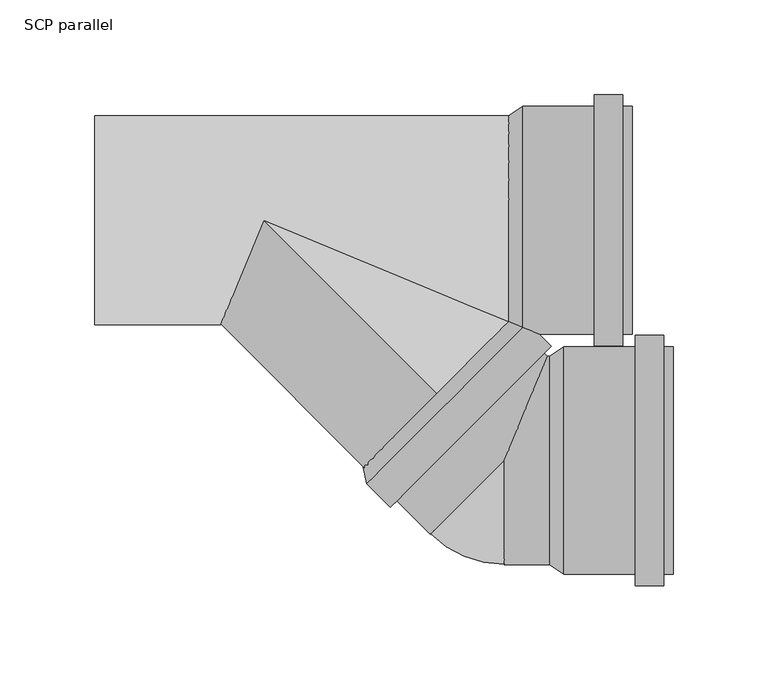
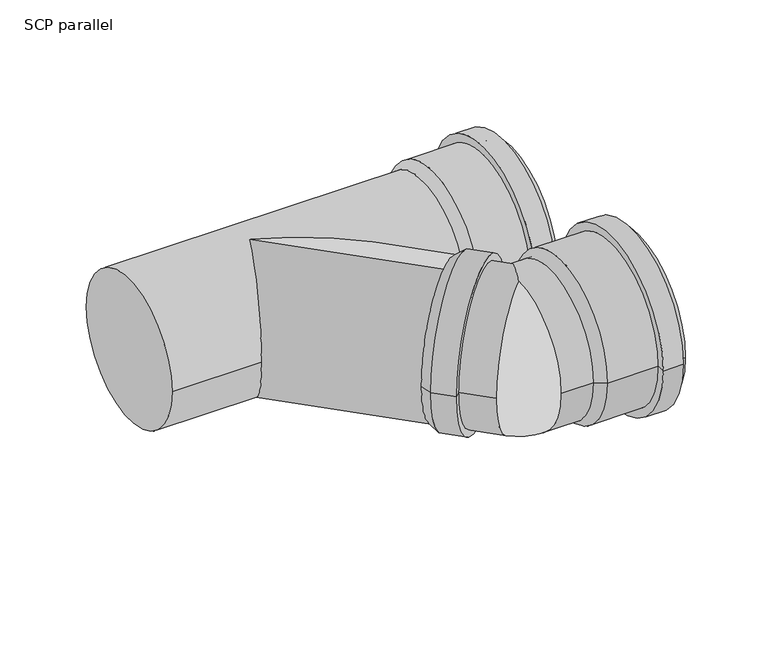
"""IFC4 building model written with IfcOpenShell, lengths in millimetres: pipe fitting geometry, AliaxisFR_Friaphon_SpecialDoubleBranch_FR : SCP parallel."""

from ifc_helpers import new_model, si_unit, point, frame, origin, place, context, project, spatial, polyline, circle_curve, ellipse_curve, trimmed, source, transform, mapped, element, save
from ifc_brep_helpers import plane_surface, cylinder_surface, revolved_surface, advanced_brep


def scp_parallel_e82be407(model_context):
    return source(origin(), model_context, "Body", "AdvancedBrep", [
        advanced_brep(
        [(215.5721138, -186.5721138, 0.0), (215.5721138, -66.5721138, 0.0), (215.5721138, -71.5721138, 0.0), (215.5721138, -181.5721138, 0.0), (195.5721138, -192.5721138, 0.0), (195.5721138, -60.5721138, 0.0), (210.5721138, -60.5721138, 0.0), (210.5721138, -192.5721138, 0.0), (195.5721138, -186.5721138, 0.0), (195.5721138, -66.5721138, 0.0), (158.0721138, -186.5721138, 0.0), (158.0721138, -66.5721138, 0.0), (150.5721138, -71.5721138, 0.0), (150.5721138, -181.5721138, 0.0), (210.5721138, -186.5721138, 0.0), (210.5721138, -66.5721138, 0.0)],
        [
            (0, 1, circle_curve(frame((215.5721138, -126.5721138, 0.0), z_axis=(1.0, 0.0, 0.0), x_axis=(0.0, 1.0, 0.0)), 60.0)),
            (1, 2),
            (2, 3, circle_curve(frame((215.5721138, -126.5721138, 0.0), z_axis=(-1.0, 0.0, 0.0), x_axis=(0.0, 1.0, 0.0)), 55.0)),
            (3, 0),
            (1, 0, circle_curve(frame((215.5721138, -126.5721138, 0.0), z_axis=(1.0, 0.0, 0.0), x_axis=(0.0, 1.0, 0.0)), 60.0)),
            (3, 2, circle_curve(frame((215.5721138, -126.5721138, 0.0), z_axis=(-1.0, 0.0, 0.0), x_axis=(0.0, 1.0, 0.0)), 55.0)),
            (4, 5, circle_curve(frame((195.5721138, -126.5721138, 0.0), z_axis=(1.0, 0.0, 0.0), x_axis=(0.0, 1.0, 0.0)), 66.0)),
            (5, 6),
            (6, 7, circle_curve(frame((210.5721138, -126.5721138, 0.0), z_axis=(-1.0, 0.0, 0.0), x_axis=(0.0, 1.0, 0.0)), 66.0)),
            (7, 4),
            (5, 4, circle_curve(frame((195.5721138, -126.5721138, 0.0), z_axis=(1.0, 0.0, 0.0), x_axis=(0.0, 1.0, 0.0)), 66.0)),
            (7, 6, circle_curve(frame((210.5721138, -126.5721138, 0.0), z_axis=(-1.0, 0.0, 0.0), x_axis=(0.0, 1.0, 0.0)), 66.0)),
            (8, 9, circle_curve(frame((195.5721138, -126.5721138, 0.0), z_axis=(1.0, 0.0, 0.0), x_axis=(0.0, 1.0, 0.0)), 60.0)),
            (9, 5),
            (4, 8),
            (9, 8, circle_curve(frame((195.5721138, -126.5721138, 0.0), z_axis=(1.0, 0.0, 0.0), x_axis=(0.0, 1.0, 0.0)), 60.0)),
            (10, 11, circle_curve(frame((158.0721138, -126.5721138, 0.0), z_axis=(1.0, 0.0, 0.0), x_axis=(0.0, 1.0, 0.0)), 60.0)),
            (11, 9),
            (8, 10),
            (11, 10, circle_curve(frame((158.0721138, -126.5721138, 0.0), z_axis=(1.0, 0.0, 0.0), x_axis=(0.0, 1.0, 0.0)), 60.0)),
            (2, 12),
            (12, 13, circle_curve(frame((150.5721138, -126.5721138, 0.0), z_axis=(-1.0, 0.0, 0.0), x_axis=(0.0, 1.0, 0.0)), 55.0)),
            (13, 3),
            (13, 12, circle_curve(frame((150.5721138, -126.5721138, 0.0), z_axis=(-1.0, 0.0, 0.0), x_axis=(0.0, 1.0, 0.0)), 55.0)),
            (12, 11),
            (10, 13),
            (14, 15, circle_curve(frame((210.5721138, -126.5721138, 0.0), z_axis=(1.0, 0.0, 0.0), x_axis=(0.0, 1.0, 0.0)), 60.0)),
            (15, 1),
            (0, 14),
            (15, 14, circle_curve(frame((210.5721138, -126.5721138, 0.0), z_axis=(1.0, 0.0, 0.0), x_axis=(0.0, 1.0, 0.0)), 60.0)),
            (6, 15),
            (14, 7),
        ],
        [
            plane_surface(frame((215.5721138, -126.5721138, 0.0), z_axis=(1.0, 0.0, 0.0), x_axis=(0.0, 1.0, 0.0))),
            cylinder_surface(frame((150.5721138, -126.5721138, 0.0), z_axis=(-1.0, 0.0, 0.0), x_axis=(0.0, 1.0, 0.0)), 66.0),
            plane_surface(frame((195.5721138, -126.5721138, 0.0), z_axis=(-1.0, 0.0, 0.0), x_axis=(0.0, 1.0, 0.0))),
            cylinder_surface(frame((150.5721138, -126.5721138, 0.0), z_axis=(-1.0, 0.0, 0.0), x_axis=(0.0, 1.0, 0.0)), 60.0),
            revolved_surface(polyline([(150.5721138, -71.5721138, 0.0), (215.5721138, -71.5721138, 0.0)]), (150.5721138, -126.5721138, 0.0), (-1.0, 0.0, 0.0)),
            revolved_surface(polyline([(158.0721138, -66.5721138, 0.0), (150.5721138, -71.5721138, 0.0)]), (150.5721138, -126.5721138, 0.0), (-1.0, 0.0, 0.0)),
            plane_surface(frame((210.5721138, -126.5721138, 0.0), z_axis=(1.0, 0.0, 0.0), x_axis=(0.0, 1.0, 0.0))),
        ],
        [
            (0, [[1, 2, 3, 4]]),
            (0, [[5, -4, 6, -2]]),
            (1, [[7, 8, 9, 10]]),
            (1, [[11, -10, 12, -8]]),
            (2, [[13, 14, -7, 15]]),
            (2, [[16, -15, -11, -14]]),
            (3, [[17, 18, -13, 19]]),
            (3, [[20, -19, -16, -18]]),
            (4, [[-3, 21, 22, 23]]),
            (4, [[-6, -23, 24, -21]]),
            (5, [[-22, 25, -17, 26]]),
            (5, [[-24, -26, -20, -25]]),
            (3, [[27, 28, -1, 29]]),
            (3, [[30, -29, -5, -28]]),
            (6, [[-9, 31, -27, 32]]),
            (6, [[-12, -32, -30, -31]]),
        ],
    ),
        advanced_brep(
        [(155.5721138, -71.5721138, 0.0), (155.5721138, -181.5721138, 0.0), (126.5721138, -181.5721138, 0.0), (149.3538598, -71.5721138, 0.0), (126.5721138, -126.5721138, 55.0), (126.5721138, -126.5721138, -55.0), (55.8614357, -133.6431816, 0.0), (133.6431816, -55.8614357, 0.0), (87.6812409, -165.4629868, 0.0)],
        [
            (0, 1, circle_curve(frame((155.5721138, -126.5721138, 0.0), z_axis=(1.0, 0.0, 0.0), x_axis=(0.0, 1.0000000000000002, 0.0)), 55.0)),
            (1, 0, circle_curve(frame((155.5721138, -126.5721138, 0.0), z_axis=(1.0, 0.0, 0.0), x_axis=(0.0, 1.0000000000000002, 0.0)), 55.0)),
            (2, 1),
            (0, 3),
            (3, 4, ellipse_curve(frame((126.5721138, -126.5721138, 0.0), z_axis=(0.9238795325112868, -0.38268343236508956, 0.0), x_axis=(-0.3826834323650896, -0.923879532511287, 0.0)), 59.531571, 55.0)),
            (4, 2, circle_curve(frame((126.5721138, -126.5721138, 0.0), z_axis=(1.0, 0.0, 0.0), x_axis=(0.0, 1.0000000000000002, 0.0)), 55.0)),
            (2, 5, circle_curve(frame((126.5721138, -126.5721138, 0.0), z_axis=(1.0, 0.0, 0.0), x_axis=(0.0, 1.0000000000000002, 0.0)), 55.0)),
            (5, 3, ellipse_curve(frame((126.5721138, -126.5721138, 0.0), z_axis=(0.9238795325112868, -0.38268343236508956, 0.0), x_axis=(-0.3826834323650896, -0.923879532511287, 0.0)), 59.531571, 55.0)),
            (6, 7, circle_curve(frame((94.7523087, -94.7523087, 0.0), z_axis=(-0.707106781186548, 0.7071067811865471, 0.0), x_axis=(0.7071067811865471, 0.707106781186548, 0.0)), 55.0)),
            (7, 6, circle_curve(frame((94.7523087, -94.7523087, 0.0), z_axis=(-0.707106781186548, 0.7071067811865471, 0.0), x_axis=(0.7071067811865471, 0.707106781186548, 0.0)), 55.0)),
            (6, 8),
            (8, 4, circle_curve(frame((126.5721138, -126.5721138, 0.0), z_axis=(-0.707106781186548, 0.7071067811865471, 0.0), x_axis=(0.7071067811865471, 0.707106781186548, 0.0)), 55.0)),
            (3, 7),
            (5, 8, circle_curve(frame((126.5721138, -126.5721138, 0.0), z_axis=(-0.707106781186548, 0.7071067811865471, 0.0), x_axis=(0.7071067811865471, 0.707106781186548, 0.0)), 55.0)),
        ],
        [
            plane_surface(frame((155.5721138, -126.5721138, 0.0), z_axis=(1.0, 0.0, 0.0), x_axis=(0.0, 0.0, 1.0))),
            cylinder_surface(frame((126.5721138, -126.5721138, 0.0), z_axis=(-1.0000000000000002, 0.0, 0.0), x_axis=(0.0, 1.0000000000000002, 0.0)), 55.0),
            plane_surface(frame((94.7523087, -94.7523087, 0.0), z_axis=(-0.707106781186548, 0.7071067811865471, 0.0), x_axis=(0.0, 0.0, 1.0))),
            cylinder_surface(frame((94.7523087, -94.7523087, 0.0), z_axis=(-0.707106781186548, 0.7071067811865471, 0.0), x_axis=(0.7071067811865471, 0.707106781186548, 0.0)), 55.0),
            revolved_surface(trimmed(ellipse_curve(frame((126.5721138, -126.5721138, 0.0), z_axis=(1.0000000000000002, 0.0, 0.0), x_axis=(0.0, 1.0000000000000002, 0.0)), 55.0, 55.0), [point((126.5721138, -126.5721138, 55.0))], [point((126.5721138, -126.5721138, -55.0))], True, "CARTESIAN"), (126.5721138, -126.5721138, 55.0), (0.0, 0.0, -1.0)),
        ],
        [
            (0, [[1, 2]]),
            (1, [[3, -1, 4, 5, 6]]),
            (1, [[-2, -3, 7, 8, -4]]),
            (2, [[9, 10]]),
            (3, [[-9, 11, 12, -5, 13]]),
            (3, [[-10, -13, -8, 14, -11]]),
            (4, [[-12, -14, -7, -6]]),
        ],
    ),
        advanced_brep(
        [(66.4680374, -151.3208512, 0.0), (151.3208512, -66.4680374, 0.0), (147.7853173, -70.0035713, 0.0), (70.0035713, -147.7853173, 0.0), (54.0936688, -138.9464825, 0.0), (138.9464825, -54.0936688, 0.0), (130.1076477, -52.3259018, 0.0), (52.3259018, -130.1076477, 0.0)],
        [
            (0, 1, circle_curve(frame((108.8944443, -108.8944443, 0.0), z_axis=(0.707106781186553, -0.7071067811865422, 0.0), x_axis=(0.7071067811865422, 0.707106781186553, 0.0)), 60.0)),
            (1, 2),
            (2, 3, circle_curve(frame((108.8944443, -108.8944443, 0.0), z_axis=(-0.707106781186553, 0.7071067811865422, 0.0), x_axis=(0.7071067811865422, 0.707106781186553, 0.0)), 55.0)),
            (3, 0),
            (1, 0, circle_curve(frame((108.8944443, -108.8944443, 0.0), z_axis=(0.707106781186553, -0.7071067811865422, 0.0), x_axis=(0.7071067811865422, 0.707106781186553, 0.0)), 60.0)),
            (3, 2, circle_curve(frame((108.8944443, -108.8944443, 0.0), z_axis=(-0.707106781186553, 0.7071067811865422, 0.0), x_axis=(0.7071067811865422, 0.707106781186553, 0.0)), 55.0)),
            (4, 5, circle_curve(frame((96.5200756, -96.5200756, 0.0), z_axis=(0.707106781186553, -0.7071067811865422, 0.0), x_axis=(0.7071067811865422, 0.707106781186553, 0.0)), 60.0)),
            (5, 1),
            (0, 4),
            (5, 4, circle_curve(frame((96.5200756, -96.5200756, 0.0), z_axis=(0.707106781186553, -0.7071067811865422, 0.0), x_axis=(0.7071067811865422, 0.707106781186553, 0.0)), 60.0)),
            (2, 6),
            (6, 7, circle_curve(frame((91.2167748, -91.2167748, 0.0), z_axis=(-0.707106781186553, 0.7071067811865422, 0.0), x_axis=(0.7071067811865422, 0.707106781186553, 0.0)), 55.0)),
            (7, 3),
            (7, 6, circle_curve(frame((91.2167748, -91.2167748, 0.0), z_axis=(-0.707106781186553, 0.7071067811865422, 0.0), x_axis=(0.7071067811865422, 0.707106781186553, 0.0)), 55.0)),
            (6, 5),
            (4, 7),
        ],
        [
            plane_surface(frame((108.8944443, -108.8944443, 0.0), z_axis=(0.707106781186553, -0.7071067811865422, 0.0), x_axis=(0.7071067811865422, 0.707106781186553, 0.0))),
            cylinder_surface(frame((91.2167748, -91.2167748, 0.0), z_axis=(-0.707106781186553, 0.7071067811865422, 0.0), x_axis=(0.7071067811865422, 0.707106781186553, 0.0)), 60.0),
            revolved_surface(polyline([(130.10764771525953, -52.32590178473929, 0.0), (147.78531726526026, -70.00357133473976, 0.0)]), (91.2167748, -91.2167748, 0.0), (-0.707106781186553, 0.7071067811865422, 0.0)),
            revolved_surface(polyline([(138.9464825, -54.0936688, 0.0), (130.1076477, -52.3259018, 0.0)]), (91.2167748, -91.2167748, 0.0), (-0.707106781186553, 0.7071067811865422, 0.0)),
        ],
        [
            (0, [[1, 2, 3, 4]]),
            (0, [[5, -4, 6, -2]]),
            (1, [[7, 8, -1, 9]]),
            (1, [[10, -9, -5, -8]]),
            (2, [[-3, 11, 12, 13]]),
            (2, [[-6, -13, 14, -11]]),
            (3, [[-12, 15, -7, 16]]),
            (3, [[-14, -16, -10, -15]]),
        ],
    ),
        advanced_brep(
        [(194.0, -60.0, 0.0), (194.0, 60.0, 0.0), (194.0, 55.0, 0.0), (194.0, -55.0, 0.0), (174.0, -66.0, 0.0), (174.0, 66.0, 0.0), (189.0, 66.0, 0.0), (189.0, -66.0, 0.0), (174.0, -60.0, 0.0), (174.0, 60.0, 0.0), (136.5, -60.0, 0.0), (136.5, 60.0, 0.0), (129.0, 55.0, 0.0), (129.0, -55.0, 0.0), (189.0, -60.0, 0.0), (189.0, 60.0, 0.0)],
        [
            (0, 1, circle_curve(frame((194.0, 0.0, 0.0), z_axis=(1.0, 0.0, 0.0), x_axis=(0.0, 1.0, 0.0)), 60.0)),
            (1, 2),
            (2, 3, circle_curve(frame((194.0, 0.0, 0.0), z_axis=(-1.0, 0.0, 0.0), x_axis=(0.0, 1.0, 0.0)), 55.0)),
            (3, 0),
            (1, 0, circle_curve(frame((194.0, 0.0, 0.0), z_axis=(1.0, 0.0, 0.0), x_axis=(0.0, 1.0, 0.0)), 60.0)),
            (3, 2, circle_curve(frame((194.0, 0.0, 0.0), z_axis=(-1.0, 0.0, 0.0), x_axis=(0.0, 1.0, 0.0)), 55.0)),
            (4, 5, circle_curve(frame((174.0, 0.0, 0.0), z_axis=(1.0, 0.0, 0.0), x_axis=(0.0, 1.0, 0.0)), 66.0)),
            (5, 6),
            (6, 7, circle_curve(frame((189.0, 0.0, 0.0), z_axis=(-1.0, 0.0, 0.0), x_axis=(0.0, 1.0, 0.0)), 66.0)),
            (7, 4),
            (5, 4, circle_curve(frame((174.0, 0.0, 0.0), z_axis=(1.0, 0.0, 0.0), x_axis=(0.0, 1.0, 0.0)), 66.0)),
            (7, 6, circle_curve(frame((189.0, 0.0, 0.0), z_axis=(-1.0, 0.0, 0.0), x_axis=(0.0, 1.0, 0.0)), 66.0)),
            (8, 9, circle_curve(frame((174.0, 0.0, 0.0), z_axis=(1.0, 0.0, 0.0), x_axis=(0.0, 1.0, 0.0)), 60.0)),
            (9, 5),
            (4, 8),
            (9, 8, circle_curve(frame((174.0, 0.0, 0.0), z_axis=(1.0, 0.0, 0.0), x_axis=(0.0, 1.0, 0.0)), 60.0)),
            (10, 11, circle_curve(frame((136.5, 0.0, 0.0), z_axis=(1.0, 0.0, 0.0), x_axis=(0.0, 1.0, 0.0)), 60.0)),
            (11, 9),
            (8, 10),
            (11, 10, circle_curve(frame((136.5, 0.0, 0.0), z_axis=(1.0, 0.0, 0.0), x_axis=(0.0, 1.0, 0.0)), 60.0)),
            (2, 12),
            (12, 13, circle_curve(frame((129.0, 0.0, 0.0), z_axis=(-1.0, 0.0, 0.0), x_axis=(0.0, 1.0, 0.0)), 55.0)),
            (13, 3),
            (13, 12, circle_curve(frame((129.0, 0.0, 0.0), z_axis=(-1.0, 0.0, 0.0), x_axis=(0.0, 1.0, 0.0)), 55.0)),
            (12, 11),
            (10, 13),
            (14, 15, circle_curve(frame((189.0, 0.0, 0.0), z_axis=(1.0, 0.0, 0.0), x_axis=(0.0, 1.0, 0.0)), 60.0)),
            (15, 1),
            (0, 14),
            (15, 14, circle_curve(frame((189.0, 0.0, 0.0), z_axis=(1.0, 0.0, 0.0), x_axis=(0.0, 1.0, 0.0)), 60.0)),
            (6, 15),
            (14, 7),
        ],
        [
            plane_surface(frame((194.0, 0.0, 0.0), z_axis=(1.0, 0.0, 0.0), x_axis=(0.0, 1.0, 0.0))),
            cylinder_surface(frame((129.0, 0.0, 0.0), z_axis=(-1.0, 0.0, 0.0), x_axis=(0.0, 1.0, 0.0)), 66.0),
            plane_surface(frame((174.0, 0.0, 0.0), z_axis=(-1.0, 0.0, 0.0), x_axis=(0.0, 1.0, 0.0))),
            cylinder_surface(frame((129.0, 0.0, 0.0), z_axis=(-1.0, 0.0, 0.0), x_axis=(0.0, 1.0, 0.0)), 60.0),
            revolved_surface(polyline([(129.0, 55.0, 0.0), (194.0, 55.0, 0.0)]), (129.0, 0.0, 0.0), (-1.0, 0.0, 0.0)),
            revolved_surface(polyline([(136.5, 60.0, 0.0), (129.0, 55.0, 0.0)]), (129.0, 0.0, 0.0), (-1.0, 0.0, 0.0)),
            plane_surface(frame((189.0, 0.0, 0.0), z_axis=(1.0, 0.0, 0.0), x_axis=(0.0, 1.0, 0.0))),
        ],
        [
            (0, [[1, 2, 3, 4]]),
            (0, [[5, -4, 6, -2]]),
            (1, [[7, 8, 9, 10]]),
            (1, [[11, -10, 12, -8]]),
            (2, [[13, 14, -7, 15]]),
            (2, [[16, -15, -11, -14]]),
            (3, [[17, 18, -13, 19]]),
            (3, [[20, -19, -16, -18]]),
            (4, [[-3, 21, 22, 23]]),
            (4, [[-6, -23, 24, -21]]),
            (5, [[-22, 25, -17, 26]]),
            (5, [[-24, -26, -20, -25]]),
            (3, [[27, 28, -1, 29]]),
            (3, [[30, -29, -5, -28]]),
            (6, [[-9, 31, -27, 32]]),
            (6, [[-12, -32, -30, -31]]),
        ],
    ),
        advanced_brep(
        [(134.0, -55.0, 0.0), (134.0, 55.0, 0.0), (-89.0, -55.0, 0.0), (-89.0, 55.0, 0.0), (132.7817459, -55.0, 0.0), (0.0, 0.0, -55.0), (-22.7817459, -55.0, 0.0), (0.0, 0.0, 55.0), (94.7523087, -94.7523087, -55.0), (94.7523087, -94.7523087, 55.0)],
        [
            (0, 1, circle_curve(frame((134.0, 0.0, 0.0), z_axis=(1.0, 0.0, 0.0), x_axis=(0.0, 1.0, 0.0)), 55.0)),
            (1, 0, circle_curve(frame((134.0, 0.0, 0.0), z_axis=(1.0, 0.0, 0.0), x_axis=(0.0, 1.0, 0.0)), 55.0)),
            (2, 3, circle_curve(frame((-89.0, 0.0, 0.0), z_axis=(-1.0, 0.0, 0.0), x_axis=(0.0, 1.0, 0.0)), 55.0)),
            (3, 2, circle_curve(frame((-89.0, 0.0, 0.0), z_axis=(-1.0, 0.0, 0.0), x_axis=(0.0, 1.0, 0.0)), 55.0)),
            (0, 4),
            (4, 5, ellipse_curve(frame((0.0, 0.0, 0.0), z_axis=(0.3826834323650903, 0.9238795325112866, 0.0), x_axis=(0.9238795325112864, -0.3826834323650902, 0.0)), 143.7219261, 55.0)),
            (5, 6, ellipse_curve(frame((0.0, 0.0, 0.0), z_axis=(-0.9238795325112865, 0.3826834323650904, 0.0), x_axis=(0.3826834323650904, 0.9238795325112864, 0.0)), 59.531571, 55.0)),
            (6, 2),
            (3, 1),
            (6, 7, ellipse_curve(frame((0.0, 0.0, 0.0), z_axis=(-0.9238795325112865, 0.3826834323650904, 0.0), x_axis=(0.3826834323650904, 0.9238795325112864, 0.0)), 59.531571, 55.0)),
            (7, 4, ellipse_curve(frame((0.0, 0.0, 0.0), z_axis=(0.3826834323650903, 0.9238795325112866, 0.0), x_axis=(0.9238795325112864, -0.3826834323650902, 0.0)), 143.7219261, 55.0)),
            (8, 9, circle_curve(frame((94.7523087, -94.7523087, 0.0), z_axis=(0.7071067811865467, -0.7071067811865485, 0.0), x_axis=(0.0, 0.0, 1.0)), 55.0)),
            (9, 8, circle_curve(frame((94.7523087, -94.7523087, 0.0), z_axis=(0.7071067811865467, -0.7071067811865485, 0.0), x_axis=(0.0, 0.0, 1.0)), 55.0)),
            (8, 5),
            (7, 9),
        ],
        [
            plane_surface(frame((134.0, 55.0, 0.0), z_axis=(1.0, 0.0, 0.0), x_axis=(0.0, 0.0, 1.0))),
            plane_surface(frame((-89.0, 55.0, 0.0), z_axis=(-1.0, 0.0, 0.0), x_axis=(0.0, 0.0, -1.0))),
            cylinder_surface(frame((-89.0, 0.0, 0.0), z_axis=(1.0, 0.0, 0.0), x_axis=(0.0, 1.0, 0.0)), 55.0),
            plane_surface(frame((94.7523087, -94.7523087, 55.0), z_axis=(0.707106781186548, -0.7071067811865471, 0.0), x_axis=(-0.7071067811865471, -0.707106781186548, 0.0))),
            cylinder_surface(frame((94.7523087, -94.7523087, 0.0), z_axis=(-0.7071067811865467, 0.7071067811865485, 0.0), x_axis=(0.0, 0.0, 1.0)), 55.0),
        ],
        [
            (0, [[1, 2]]),
            (1, [[3, 4]]),
            (2, [[-1, 5, 6, 7, 8, -4, 9]]),
            (2, [[-2, -9, -3, -8, 10, 11, -5]]),
            (3, [[12, 13]]),
            (4, [[-12, 14, -6, -11, 15]]),
            (4, [[-13, -15, -10, -7, -14]]),
        ],
    ),
    ])


if __name__ == "__main__":
    model = new_model("IFC4")
    model_context = context("Model", 3, world=origin())
    ifc_project = project(units=[si_unit("LENGTHUNIT", "METRE", prefix="MILLI")], contexts=[model_context])
    site = spatial("IfcSite", under=ifc_project)
    building = spatial("IfcBuilding", under=site)
    placement = place(None, origin())
    scp_parallel_shape = scp_parallel_e82be407(model_context)
    element("IfcPipeFitting", 1, ObjectType="AliaxisFR_Friaphon_SpecialDoubleBranch_FR : SCP parallel", at=placement, inside=building, context=model_context, shape_type="MappedRepresentation", body=[
        mapped(scp_parallel_shape, transform((0.0, 0.0, 0.0), x_axis=(1.0, 0.0, 0.0), y_axis=(0.0, 1.0, 0.0), z_axis=(0.0, 0.0, 1.0))),
    ])
    save(model, "model.ifc")
